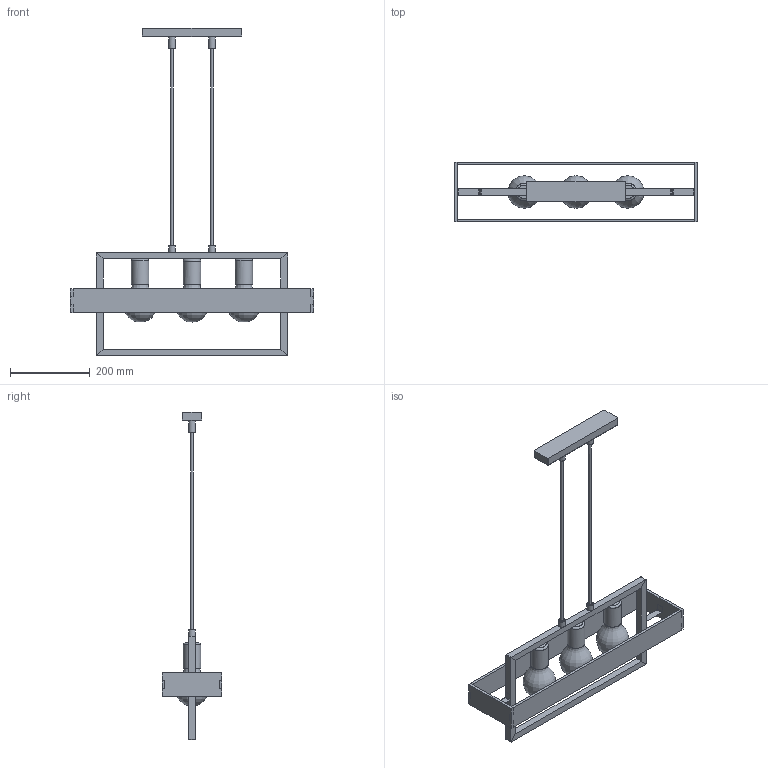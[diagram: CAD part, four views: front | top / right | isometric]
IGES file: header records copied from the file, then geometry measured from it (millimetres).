
Global section: file name: C:\Marek\TuXka\Liczy siX sXowo\_Modelowanie SIGMA\Robin\paczka\ROBIN.igs; native system: HarmonyWare Translators; preprocessor: HarmonyWare IGES v1.7.11; date: 20220317.155319; units: millimetre
Bounding box: 610 x 150 x 822 mm (x, y, z)
Surface area: 529094.7 mm2 (no closed solid volume)
Topology: 0 solids, 0 shells, 324 faces, 4172 edges, 4000 vertices
Faces by surface type: bspline 324
